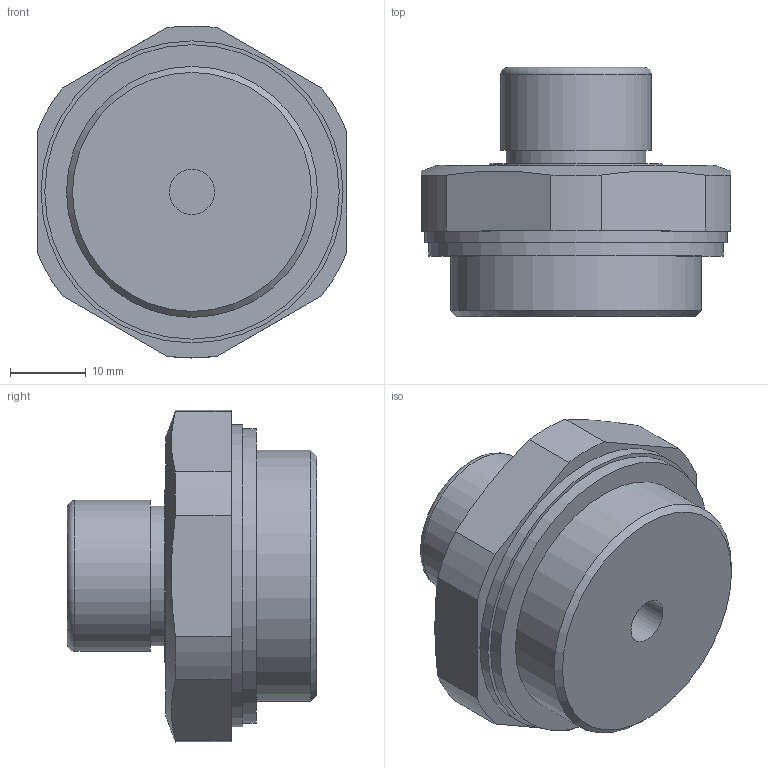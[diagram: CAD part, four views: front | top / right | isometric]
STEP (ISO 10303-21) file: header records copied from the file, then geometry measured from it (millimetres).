
FILE_DESCRIPTION( ( 'STEP AP203' ), '1' );
FILE_NAME( 'C:/Temp/Ganter_Step_05_03_2020/data/3_5/gn882/Breather filters GN 882-G1-MS-M.stp', '2020-03-12T13:42:44', ( 'License CC BY-ND 4.0' ), ( 'CADENAS' ), ' ', 'PARTsolutions', ' ' );
FILE_SCHEMA( ( 'CONFIG_CONTROL_DESIGN' ) );
Length unit declared in the file: millimetre
Products named in the file (1): _Breather filters GN 882-G1-MS-M
Bounding box: 41 x 33 x 43.97 mm (x, y, z)
Volume: 26721 mm3; surface area: 6286.7 mm2
Topology: 1 solids, 1 shells, 33 faces, 67 edges, 44 vertices
Faces by surface type: plane 16, cylinder 14, cone 2, torus 1
Full cylindrical faces by diameter (mm): 6 x1, 18.5 x1, 19 x1, 20 x1, 23 x1, 33.249 x1, 39 x1, 40 x1
Entity records: 874 total; most frequent: CARTESIAN_POINT 162, DIRECTION 148, ORIENTED_EDGE 110, AXIS2_PLACEMENT_3D 65, EDGE_CURVE 55, EDGE_LOOP 52, VERTEX_POINT 43, FACE_OUTER_BOUND 42
